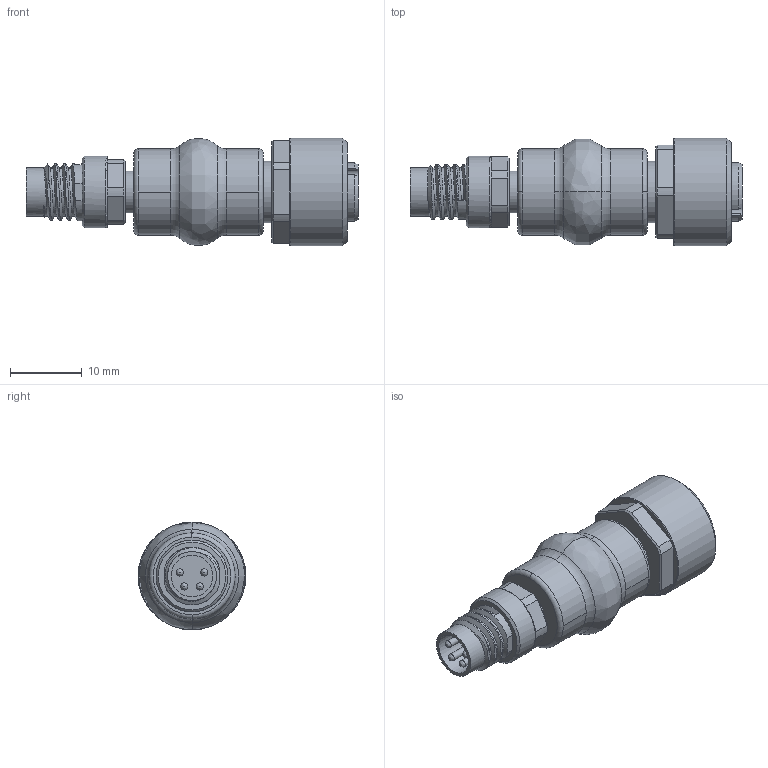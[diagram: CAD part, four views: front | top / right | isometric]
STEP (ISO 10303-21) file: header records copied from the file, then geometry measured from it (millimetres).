
FILE_DESCRIPTION(/* description */ (''),/* implementation_level */ '2;1');
FILE_NAME(/* name */ '350AGA2K_B.stp',/* time_stamp */ '2016-05-04T09:37:45+02:00',/* author */ (''),/* organization */ (''),/* preprocessor_version */ 'ST-DEVELOPER v15',/* originating_system */ 'SIEMENS PLM Software NX 8.5',/* authorisation */ '');
FILE_SCHEMA (('AP203_CONFIGURATION_CONTROLLED_3D_DESIGN_OF_MECHANICAL_PARTS_AND_ASSEMBLIES_MIM_LF { 1 0 10303 403 2 1 2}'));
Length unit declared in the file: millimetre
Products named in the file (1): he1r10345F2Cn0mt
Bounding box: 46.2 x 15 x 15 mm (x, y, z)
Volume: 4441.7 mm3; surface area: 3124.5 mm2
Topology: 1 solids, 1 shells, 151 faces, 365 edges, 234 vertices
Faces by surface type: plane 64, cylinder 47, cone 18, bspline 12, torus 10
Full cylindrical faces by diameter (mm): 1 x4, 1.2 x5, 5.8 x2, 6.8 x4, 8.2 x1, 8.5 x1, 10 x1, 15 x1
Entity records: 7076 total; most frequent: CARTESIAN_POINT 3812, ORIENTED_EDGE 642, DIRECTION 634, EDGE_CURVE 321, AXIS2_PLACEMENT_3D 268, VERTEX_POINT 219, EDGE_LOOP 190, ADVANCED_FACE 147
